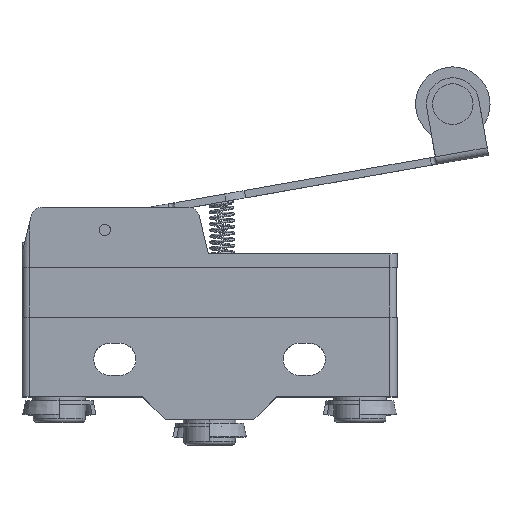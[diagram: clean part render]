
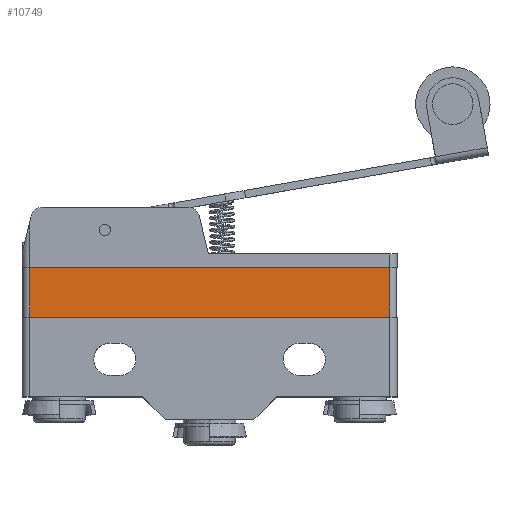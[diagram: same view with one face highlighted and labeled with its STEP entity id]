
A CAD part, top view. The second image highlights one B-rep face of the part: STEP entity #10749.
In plain terms, the highlighted planar face has unit normal (0, 0, 1).
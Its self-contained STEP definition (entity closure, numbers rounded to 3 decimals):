
#1327 = CARTESIAN_POINT ( 'NONE',  ( 23.95, 10.1, 8.9 ) ) ;
#1369 = CARTESIAN_POINT ( 'NONE',  ( -23.95, 10.1, 8.9 ) ) ;
#2030 = AXIS2_PLACEMENT_3D ( 'NONE', #8243, #8244, #8245 ) ;
#2037 = FACE_OUTER_BOUND ( 'NONE', #2461, .T. ) ;
#2461 = EDGE_LOOP ( 'NONE', ( #4849, #4846, #4847, #4845 ) ) ;
#3557 = LINE ( 'NONE', #3558, #4738 ) ;
#3558 = CARTESIAN_POINT ( 'NONE',  ( -23.95, 3.5, 8.9 ) ) ;
#3559 = DIRECTION ( 'NONE',  ( 1., 0., 0. ) ) ;
#3590 = LINE ( 'NONE', #3591, #4742 ) ;
#3591 = CARTESIAN_POINT ( 'NONE',  ( 23.95, 3.5, 8.9 ) ) ;
#3592 = DIRECTION ( 'NONE',  ( 0., 1., 0. ) ) ;
#3596 = LINE ( 'NONE', #3597, #4722 ) ;
#3597 = CARTESIAN_POINT ( 'NONE',  ( -23.95, 3.5, 8.9 ) ) ;
#3598 = DIRECTION ( 'NONE',  ( 0., 1., 0. ) ) ;
#3599 = LINE ( 'NONE', #3600, #4710 ) ;
#3600 = CARTESIAN_POINT ( 'NONE',  ( -23.95, 10.1, 8.9 ) ) ;
#3601 = DIRECTION ( 'NONE',  ( 1., 0., 0. ) ) ;
#4710 = VECTOR ( 'NONE', #3601, 1000. ) ;
#4722 = VECTOR ( 'NONE', #3598, 1000. ) ;
#4738 = VECTOR ( 'NONE', #3559, 1000. ) ;
#4742 = VECTOR ( 'NONE', #3592, 1000. ) ;
#4845 = ORIENTED_EDGE ( 'NONE', *, *, #10083, .T. ) ;
#4846 = ORIENTED_EDGE ( 'NONE', *, *, #10085, .F. ) ;
#4847 = ORIENTED_EDGE ( 'NONE', *, *, #10072, .T. ) ;
#4849 = ORIENTED_EDGE ( 'NONE', *, *, #10086, .F. ) ;
#8242 = PLANE ( 'NONE',  #2030 ) ;
#8243 = CARTESIAN_POINT ( 'NONE',  ( -23.95, 3.5, 8.9 ) ) ;
#8244 = DIRECTION ( 'NONE',  ( 0., 0., 1. ) ) ;
#8245 = DIRECTION ( 'NONE',  ( 1., 0., 0. ) ) ;
#9510 = VERTEX_POINT ( 'NONE', #9736 ) ;
#9511 = VERTEX_POINT ( 'NONE', #9737 ) ;
#9736 = CARTESIAN_POINT ( 'NONE',  ( 23.95, 3.5, 8.9 ) ) ;
#9737 = CARTESIAN_POINT ( 'NONE',  ( -23.95, 3.5, 8.9 ) ) ;
#10072 = EDGE_CURVE ( 'NONE', #9511, #9510, #3557, .T. ) ;
#10083 = EDGE_CURVE ( 'NONE', #9510, #11540, #3590, .T. ) ;
#10085 = EDGE_CURVE ( 'NONE', #9511, #11582, #3596, .T. ) ;
#10086 = EDGE_CURVE ( 'NONE', #11582, #11540, #3599, .T. ) ;
#10749 = ADVANCED_FACE ( 'NONE', ( #2037 ), #8242, .T. ) ;
#11540 = VERTEX_POINT ( 'NONE', #1327 ) ;
#11582 = VERTEX_POINT ( 'NONE', #1369 ) ;
